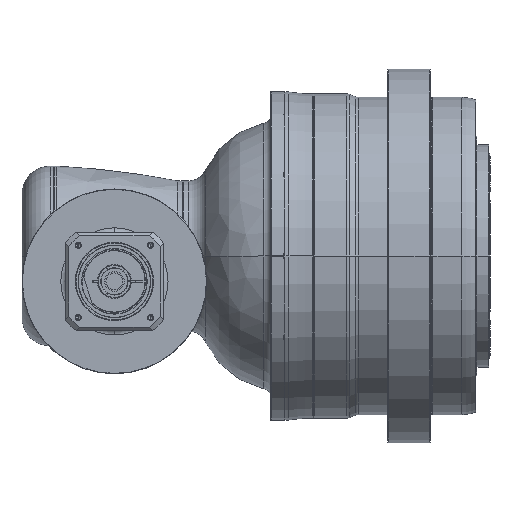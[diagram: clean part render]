
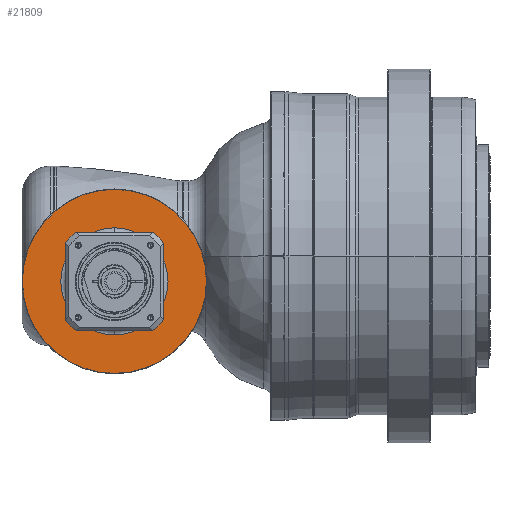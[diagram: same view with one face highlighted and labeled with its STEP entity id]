
A CAD part, front view. The second image highlights one B-rep face of the part: STEP entity #21809.
In plain terms, the highlighted planar face has unit normal (0, -1, 0) as drawn and (1, 0, 0) by its records, which use the part's own axes.
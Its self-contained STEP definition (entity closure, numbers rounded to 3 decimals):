
#20840=CARTESIAN_POINT('',(-11.5,0.,0.));
#20841=DIRECTION('',(-1.,0.,0.));
#20842=DIRECTION('',(0.,-1.,0.));
#20843=AXIS2_PLACEMENT_3D('',#20840,#20841,#20842);
#20845=CARTESIAN_POINT('',(-11.5,0.,0.));
#20846=DIRECTION('',(-1.,0.,0.));
#20847=DIRECTION('',(0.,1.,0.));
#20848=AXIS2_PLACEMENT_3D('',#20845,#20846,#20847);
#20850=CARTESIAN_POINT('',(-11.5,0.,0.));
#20851=DIRECTION('',(-1.,0.,0.));
#20852=DIRECTION('',(0.,-1.,0.));
#20853=AXIS2_PLACEMENT_3D('',#20850,#20851,#20852);
#20855=CARTESIAN_POINT('',(-11.5,0.,0.));
#20856=DIRECTION('',(-1.,0.,0.));
#20857=DIRECTION('',(0.,1.,0.));
#20858=AXIS2_PLACEMENT_3D('',#20855,#20856,#20857);
#21088=CARTESIAN_POINT('',(-11.5,-130.5,0.));
#21089=CARTESIAN_POINT('',(-11.5,130.5,0.));
#21090=VERTEX_POINT('',#21088);
#21091=VERTEX_POINT('',#21089);
#21104=CARTESIAN_POINT('',(-11.5,-76.,0.));
#21105=CARTESIAN_POINT('',(-11.5,76.,0.));
#21106=VERTEX_POINT('',#21104);
#21107=VERTEX_POINT('',#21105);
#21794=CARTESIAN_POINT('',(-11.5,0.,0.));
#21795=DIRECTION('',(1.,0.,0.));
#21796=DIRECTION('',(0.,-1.,0.));
#21797=AXIS2_PLACEMENT_3D('',#21794,#21795,#21796);
#21798=PLANE('',#21797);
#21799=ORIENTED_EDGE('',*,*,#21750,.T.);
#21800=ORIENTED_EDGE('',*,*,#21735,.T.);
#21801=EDGE_LOOP('',(#21799,#21800));
#21802=FACE_OUTER_BOUND('',#21801,.F.);
#21804=ORIENTED_EDGE('',*,*,#21803,.F.);
#21806=ORIENTED_EDGE('',*,*,#21805,.F.);
#21807=EDGE_LOOP('',(#21804,#21806));
#21808=FACE_BOUND('',#21807,.F.);
#21809=ADVANCED_FACE('',(#21802,#21808),#21798,.T.);
#20844=CIRCLE('',#20843,76.);
#20849=CIRCLE('',#20848,76.);
#20854=CIRCLE('',#20853,130.5);
#20859=CIRCLE('',#20858,130.5);
#21735=EDGE_CURVE('',#21091,#21090,#20859,.T.);
#21750=EDGE_CURVE('',#21090,#21091,#20854,.T.);
#21803=EDGE_CURVE('',#21106,#21107,#20844,.T.);
#21805=EDGE_CURVE('',#21107,#21106,#20849,.T.);
